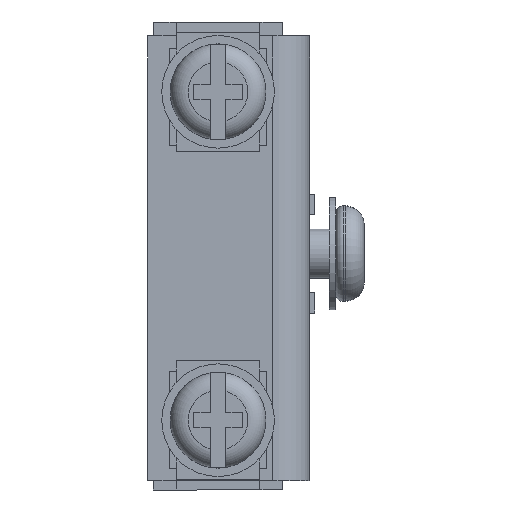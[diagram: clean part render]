
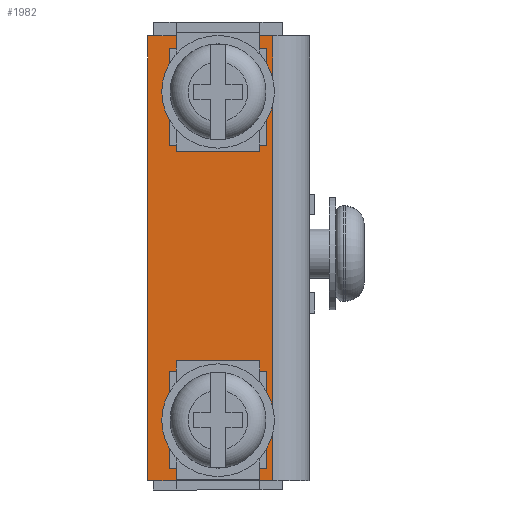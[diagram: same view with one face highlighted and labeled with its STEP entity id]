
A CAD part, front view. The second image highlights one B-rep face of the part: STEP entity #1982.
In plain terms, the highlighted planar face has unit normal (0, -1, 0).
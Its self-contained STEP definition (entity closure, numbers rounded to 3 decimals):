
#195=LINE('',#3140,#435);
#199=LINE('',#3153,#439);
#201=LINE('',#3157,#441);
#212=LINE('',#3179,#452);
#213=LINE('',#3182,#453);
#214=LINE('',#3184,#454);
#215=LINE('',#3186,#455);
#216=LINE('',#3187,#456);
#217=LINE('',#3190,#457);
#218=LINE('',#3192,#458);
#219=LINE('',#3194,#459);
#220=LINE('',#3195,#460);
#435=VECTOR('',#2526,1000.);
#439=VECTOR('',#2540,1000.);
#441=VECTOR('',#2544,1000.);
#452=VECTOR('',#2561,1000.);
#453=VECTOR('',#2562,1000.);
#454=VECTOR('',#2563,1000.);
#455=VECTOR('',#2564,1000.);
#456=VECTOR('',#2565,1000.);
#457=VECTOR('',#2566,1000.);
#458=VECTOR('',#2567,1000.);
#459=VECTOR('',#2568,1000.);
#460=VECTOR('',#2569,1000.);
#611=PLANE('',#2154);
#992=ORIENTED_EDGE('',*,*,#1395,.F.);
#993=ORIENTED_EDGE('',*,*,#1396,.F.);
#994=ORIENTED_EDGE('',*,*,#1397,.F.);
#995=ORIENTED_EDGE('',*,*,#1398,.F.);
#996=ORIENTED_EDGE('',*,*,#1399,.F.);
#997=ORIENTED_EDGE('',*,*,#1400,.F.);
#998=ORIENTED_EDGE('',*,*,#1401,.F.);
#999=ORIENTED_EDGE('',*,*,#1402,.F.);
#1000=ORIENTED_EDGE('',*,*,#1382,.T.);
#1001=ORIENTED_EDGE('',*,*,#1403,.F.);
#1002=ORIENTED_EDGE('',*,*,#1375,.F.);
#1003=ORIENTED_EDGE('',*,*,#1384,.T.);
#1375=EDGE_CURVE('',#1606,#1607,#195,.T.);
#1382=EDGE_CURVE('',#1611,#1610,#199,.T.);
#1384=EDGE_CURVE('',#1606,#1611,#201,.T.);
#1395=EDGE_CURVE('',#1620,#1621,#212,.T.);
#1396=EDGE_CURVE('',#1622,#1620,#213,.T.);
#1397=EDGE_CURVE('',#1623,#1622,#214,.T.);
#1398=EDGE_CURVE('',#1621,#1623,#215,.T.);
#1399=EDGE_CURVE('',#1624,#1625,#216,.T.);
#1400=EDGE_CURVE('',#1626,#1624,#217,.T.);
#1401=EDGE_CURVE('',#1627,#1626,#218,.T.);
#1402=EDGE_CURVE('',#1625,#1627,#219,.T.);
#1403=EDGE_CURVE('',#1607,#1610,#220,.T.);
#1606=VERTEX_POINT('',#3139);
#1607=VERTEX_POINT('',#3141);
#1610=VERTEX_POINT('',#3152);
#1611=VERTEX_POINT('',#3154);
#1620=VERTEX_POINT('',#3180);
#1621=VERTEX_POINT('',#3181);
#1622=VERTEX_POINT('',#3183);
#1623=VERTEX_POINT('',#3185);
#1624=VERTEX_POINT('',#3188);
#1625=VERTEX_POINT('',#3189);
#1626=VERTEX_POINT('',#3191);
#1627=VERTEX_POINT('',#3193);
#1736=EDGE_LOOP('',(#992,#993,#994,#995));
#1737=EDGE_LOOP('',(#996,#997,#998,#999));
#1738=EDGE_LOOP('',(#1000,#1001,#1002,#1003));
#1872=FACE_BOUND('',#1736,.T.);
#1873=FACE_BOUND('',#1737,.T.);
#1874=FACE_BOUND('',#1738,.T.);
#1982=ADVANCED_FACE('',(#1872,#1873,#1874),#611,.F.);
#2154=AXIS2_PLACEMENT_3D('',#3178,#2559,#2560);
#2526=DIRECTION('',(0.,0.,1.));
#2540=DIRECTION('',(0.,0.,1.));
#2544=DIRECTION('',(1.,0.,0.));
#2559=DIRECTION('',(0.,1.,0.));
#2560=DIRECTION('',(0.,0.,1.));
#2561=DIRECTION('',(1.,0.,0.));
#2562=DIRECTION('',(0.,0.,-1.));
#2563=DIRECTION('',(-1.,0.,0.));
#2564=DIRECTION('',(0.,0.,1.));
#2565=DIRECTION('',(1.,0.,0.));
#2566=DIRECTION('',(0.,0.,-1.));
#2567=DIRECTION('',(-1.,0.,0.));
#2568=DIRECTION('',(0.,0.,1.));
#2569=DIRECTION('',(1.,0.,0.));
#3139=CARTESIAN_POINT('',(-21.819,-29.235,-7.938));
#3140=CARTESIAN_POINT('',(-21.819,-29.235,-7.938));
#3141=CARTESIAN_POINT('',(-21.819,-29.235,4.305));
#3152=CARTESIAN_POINT('',(21.819,-29.235,4.305));
#3153=CARTESIAN_POINT('',(21.819,-29.235,-7.938));
#3154=CARTESIAN_POINT('',(21.819,-29.235,-7.938));
#3157=CARTESIAN_POINT('',(-21.819,-29.235,-7.938));
#3178=CARTESIAN_POINT('',(-21.819,-29.235,-7.938));
#3179=CARTESIAN_POINT('',(-20.638,-29.235,-5.817));
#3180=CARTESIAN_POINT('',(-20.638,-29.235,-5.817));
#3181=CARTESIAN_POINT('',(-11.113,-29.235,-5.817));
#3182=CARTESIAN_POINT('',(-20.638,-29.235,3.708));
#3183=CARTESIAN_POINT('',(-20.638,-29.235,3.708));
#3184=CARTESIAN_POINT('',(-11.113,-29.235,3.708));
#3185=CARTESIAN_POINT('',(-11.113,-29.235,3.708));
#3186=CARTESIAN_POINT('',(-11.113,-29.235,-5.817));
#3187=CARTESIAN_POINT('',(11.113,-29.235,-5.817));
#3188=CARTESIAN_POINT('',(11.113,-29.235,-5.817));
#3189=CARTESIAN_POINT('',(20.638,-29.235,-5.817));
#3190=CARTESIAN_POINT('',(11.113,-29.235,3.708));
#3191=CARTESIAN_POINT('',(11.113,-29.235,3.708));
#3192=CARTESIAN_POINT('',(20.638,-29.235,3.708));
#3193=CARTESIAN_POINT('',(20.638,-29.235,3.708));
#3194=CARTESIAN_POINT('',(20.638,-29.235,-5.817));
#3195=CARTESIAN_POINT('',(-21.819,-29.235,4.305));
